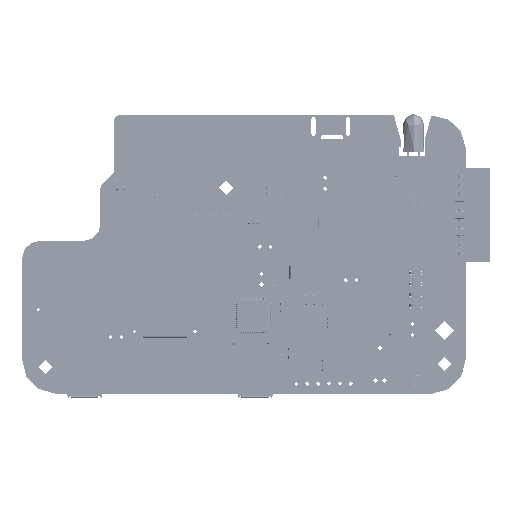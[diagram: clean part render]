
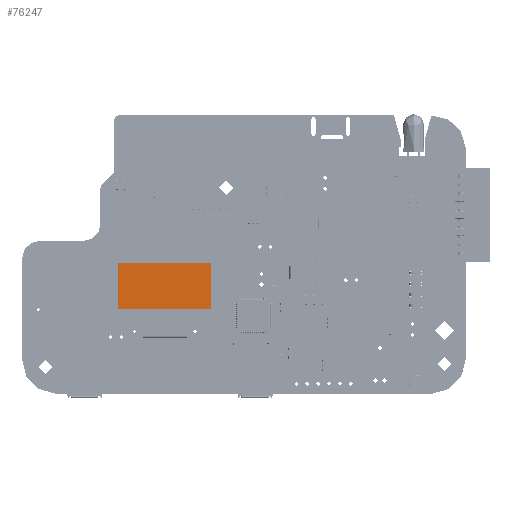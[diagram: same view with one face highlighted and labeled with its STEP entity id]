
A CAD part, top view. The second image highlights one B-rep face of the part: STEP entity #76247.
In plain terms, the highlighted planar face has unit normal (0, 0, 1).
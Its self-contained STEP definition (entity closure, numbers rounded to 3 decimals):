
#76156 = VERTEX_POINT('',#76157);
#76157 = CARTESIAN_POINT('',(35.375,17.7,1.41)
  );
#76165 = VERTEX_POINT('',#76166);
#76166 = CARTESIAN_POINT('',(35.375,6.825,1.41));
#76172 = EDGE_CURVE('',#76165,#76156,#76173,.T.);
#76173 = LINE('',#76174,#76175);
#76174 = CARTESIAN_POINT('',(35.375,6.825,1.41));
#76175 = VECTOR('',#76176,1.);
#76176 = DIRECTION('',(0.,1.,0.));
#76187 = VERTEX_POINT('',#76188);
#76188 = CARTESIAN_POINT('',(57.125,17.7,1.41)
  );
#76196 = EDGE_CURVE('',#76156,#76187,#76197,.T.);
#76197 = LINE('',#76198,#76199);
#76198 = CARTESIAN_POINT('',(35.375,17.7,1.41)
  );
#76199 = VECTOR('',#76200,1.);
#76200 = DIRECTION('',(1.,0.,0.));
#76211 = VERTEX_POINT('',#76212);
#76212 = CARTESIAN_POINT('',(57.125,6.825,1.41));
#76220 = EDGE_CURVE('',#76187,#76211,#76221,.T.);
#76221 = LINE('',#76222,#76223);
#76222 = CARTESIAN_POINT('',(57.125,17.7,1.41)
  );
#76223 = VECTOR('',#76224,1.);
#76224 = DIRECTION('',(0.,-1.,0.));
#76237 = EDGE_CURVE('',#76211,#76165,#76238,.T.);
#76238 = LINE('',#76239,#76240);
#76239 = CARTESIAN_POINT('',(57.125,6.825,1.41));
#76240 = VECTOR('',#76241,1.);
#76241 = DIRECTION('',(-1.,0.,0.));
#76247 = ADVANCED_FACE('',(#76248),#76254,.T.);
#76248 = FACE_BOUND('',#76249,.T.);
#76249 = EDGE_LOOP('',(#76250,#76251,#76252,#76253));
#76250 = ORIENTED_EDGE('',*,*,#76196,.F.);
#76251 = ORIENTED_EDGE('',*,*,#76172,.F.);
#76252 = ORIENTED_EDGE('',*,*,#76237,.F.);
#76253 = ORIENTED_EDGE('',*,*,#76220,.F.);
#76254 = PLANE('',#76255);
#76255 = AXIS2_PLACEMENT_3D('',#76256,#76257,#76258);
#76256 = CARTESIAN_POINT('',(35.375,6.825,1.41));
#76257 = DIRECTION('',(0.,0.,1.));
#76258 = DIRECTION('',(1.,0.,0.));
